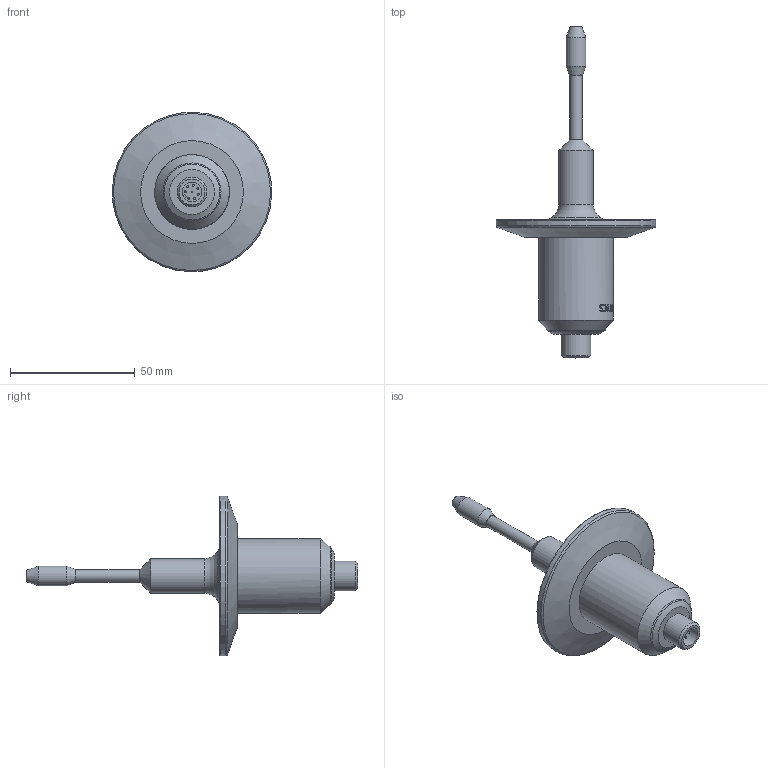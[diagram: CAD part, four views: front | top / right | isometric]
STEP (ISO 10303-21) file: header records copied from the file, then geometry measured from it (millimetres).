
FILE_DESCRIPTION(/* description */ ('Unknown'),/* implementation_level */ '2;1');
FILE_NAME(/* name */ 'SRV-HD-X3-20T',/* time_stamp */ '2024-01-15T15:26:48-05:00',/* author */ ('Unknown'),/* organization */ ('Unknown'),/* preprocessor_version */ 'ST-DEVELOPER v16.7',/* originating_system */ 'Solid Edge',/* authorisation */ 'Unknown');
FILE_SCHEMA (('CONFIG_CONTROL_DESIGN'));
Length unit declared in the file: millimetre
Products named in the file (1): SRV-HD-X3-20T
Bounding box: 63.97 x 133.13 x 63.97 mm (x, y, z)
Volume: 50892.4 mm3; surface area: 13468.4 mm2
Topology: 1 solids, 1 shells, 172 faces, 438 edges, 281 vertices
Faces by surface type: bspline 71, cylinder 37, plane 37, cone 13, sphere 8, torus 6
Full cylindrical faces by diameter (mm): 0.8 x8, 5.019 x1, 8 x2, 12 x1, 13.9 x1, 30 x1, 64 x1
Entity records: 9147 total; most frequent: CARTESIAN_POINT 4576, ORIENTED_EDGE 740, DIRECTION 476, EDGE_CURVE 370, VERTEX_POINT 263, EDGE_LOOP 235, FACE_BOUND 235, AXIS2_PLACEMENT_3D 175
